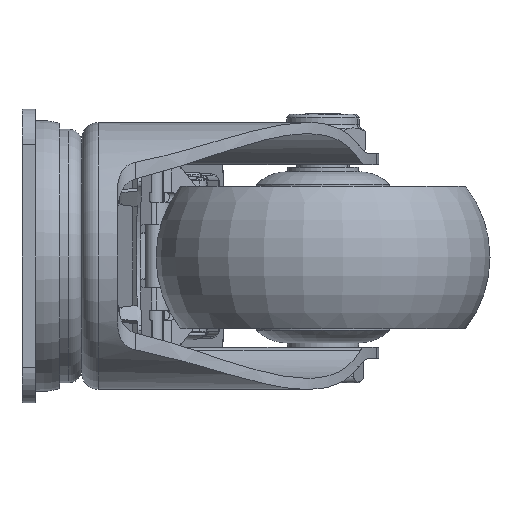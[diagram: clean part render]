
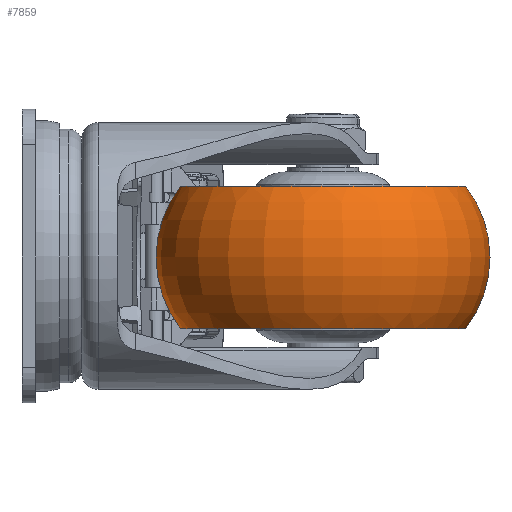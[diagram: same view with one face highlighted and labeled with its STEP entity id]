
A CAD part, left-side view. The second image highlights one B-rep face of the part: STEP entity #7859.
In plain terms, the highlighted toroidal (fillet/blend) face has major radius 11.477 mm and minor radius 26.023 mm.
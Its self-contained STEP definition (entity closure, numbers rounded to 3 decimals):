
#7701 = VERTEX_POINT ( 'NONE', #45955 ) ;
#7702 = VERTEX_POINT ( 'NONE', #45953 ) ;
#7704 = EDGE_CURVE ( 'NONE', #7702, #7705, #45952, .T. ) ;
#7705 = VERTEX_POINT ( 'NONE', #45947 ) ;
#7708 = VERTEX_POINT ( 'NONE', #45932 ) ;
#7710 = EDGE_CURVE ( 'NONE', #7701, #7708, #46042, .T. ) ;
#7855 = EDGE_CURVE ( 'NONE', #7702, #7701, #46527, .T. ) ;
#7859 = ADVANCED_FACE ( 'NONE', ( #46506 ), #46505, .T. ) ;
#7860 = EDGE_LOOP ( 'NONE', ( #7861, #7862, #7911, #7912 ) ) ;
#7861 = ORIENTED_EDGE ( 'NONE', *, *, #7704, .F. ) ;
#7862 = ORIENTED_EDGE ( 'NONE', *, *, #7855, .T. ) ;
#7911 = ORIENTED_EDGE ( 'NONE', *, *, #7710, .T. ) ;
#7912 = ORIENTED_EDGE ( 'NONE', *, *, #7913, .F. ) ;
#7913 = EDGE_CURVE ( 'NONE', #7705, #7708, #46755, .T. ) ;
#45932 = CARTESIAN_POINT ( 'NONE',  ( 0., -16., -32. ) ) ;
#45947 = CARTESIAN_POINT ( 'NONE',  ( 0., -16., 32. ) ) ;
#45948 = DIRECTION ( 'NONE',  ( 0., 0., -1. ) ) ;
#45949 = DIRECTION ( 'NONE',  ( 1., 0., 0. ) ) ;
#45950 = CARTESIAN_POINT ( 'NONE',  ( 0., 0., 11.477 ) ) ;
#45951 = AXIS2_PLACEMENT_3D ( 'NONE', #45950, #45949, #45948 ) ;
#45952 = CIRCLE ( 'NONE', #45951, 26.023 ) ;
#45953 = CARTESIAN_POINT ( 'NONE',  ( 0., 16., 32. ) ) ;
#45955 = CARTESIAN_POINT ( 'NONE',  ( 0., 16., -32. ) ) ;
#46038 = DIRECTION ( 'NONE',  ( 0., 0., 1. ) ) ;
#46039 = DIRECTION ( 'NONE',  ( -1., 0., 0. ) ) ;
#46040 = CARTESIAN_POINT ( 'NONE',  ( 0., 0., -11.477 ) ) ;
#46041 = AXIS2_PLACEMENT_3D ( 'NONE', #46040, #46039, #46038 ) ;
#46042 = CIRCLE ( 'NONE', #46041, 26.023 ) ;
#46498 = DIRECTION ( 'NONE',  ( 0., -1., 0. ) ) ;
#46499 = CARTESIAN_POINT ( 'NONE',  ( 0., 0., 0. ) ) ;
#46501 = AXIS2_PLACEMENT_3D ( 'NONE', #46499, #46498, #46632 ) ;
#46505 = TOROIDAL_SURFACE ( 'NONE', #46501, 11.477, 26.023 ) ;
#46506 = FACE_OUTER_BOUND ( 'NONE', #7860, .T. ) ;
#46508 = DIRECTION ( 'NONE',  ( 0., 0., -1. ) ) ;
#46510 = DIRECTION ( 'NONE',  ( 0., -1., 0. ) ) ;
#46512 = CARTESIAN_POINT ( 'NONE',  ( 0., 16., 0. ) ) ;
#46514 = AXIS2_PLACEMENT_3D ( 'NONE', #46512, #46510, #46508 ) ;
#46527 = CIRCLE ( 'NONE', #46514, 32. ) ;
#46632 = DIRECTION ( 'NONE',  ( 0., 0., -1. ) ) ;
#46750 = DIRECTION ( 'NONE',  ( 0., 0., -1. ) ) ;
#46752 = DIRECTION ( 'NONE',  ( 0., -1., 0. ) ) ;
#46753 = CARTESIAN_POINT ( 'NONE',  ( 0., -16., 0. ) ) ;
#46754 = AXIS2_PLACEMENT_3D ( 'NONE', #46753, #46752, #46750 ) ;
#46755 = CIRCLE ( 'NONE', #46754, 32. ) ;
